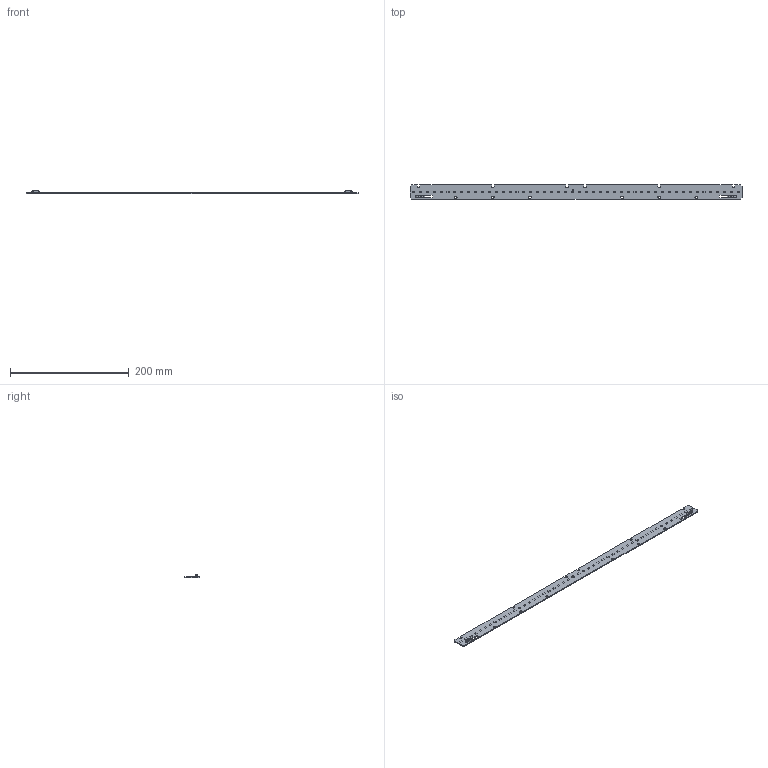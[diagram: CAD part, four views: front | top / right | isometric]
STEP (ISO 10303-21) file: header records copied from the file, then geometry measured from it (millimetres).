
FILE_DESCRIPTION((''),'2;1');
FILE_NAME('16208856_LLE-G1-24X560-HO-HV','2020-05-26T15:19:09',('bernhard.fink'),(''),'CREO PARAMETRIC BY PTC INC, 2019164','CREO PARAMETRIC BY PTC INC, 2019164','');
FILE_SCHEMA(('CONFIG_CONTROL_DESIGN'));
Products named in the file (1): 16208856_LLE-G1-24X560-HO-HV
Bounding box: 559 x 23.6 x 5.1 mm (x, y, z)
Volume: 21586.9 mm3; surface area: 28850.9 mm2
Topology: 1 solids, 38 shells, 807 faces, 2428 edges, 1650 vertices
Faces by surface type: plane 465, cylinder 158, bspline 112, cone 34, sphere 20, torus 18
Entity records: 55717 total; most frequent: CARTESIAN_POINT 36039, ORIENTED_EDGE 4244, DIRECTION 3226, EDGE_CURVE 2428, VERTEX_POINT 1650, VECTOR 1374, LINE 1374, AXIS2_PLACEMENT_3D 926
